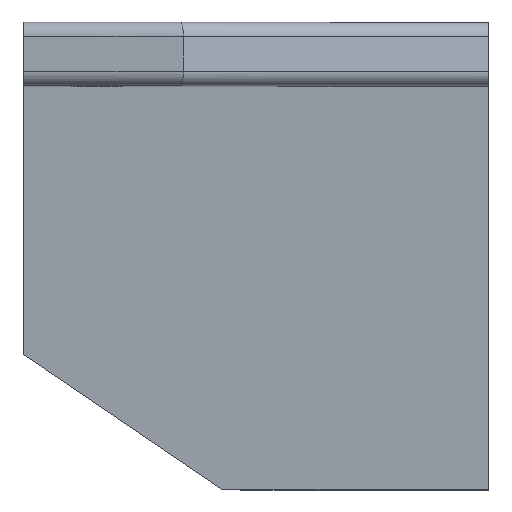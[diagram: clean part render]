
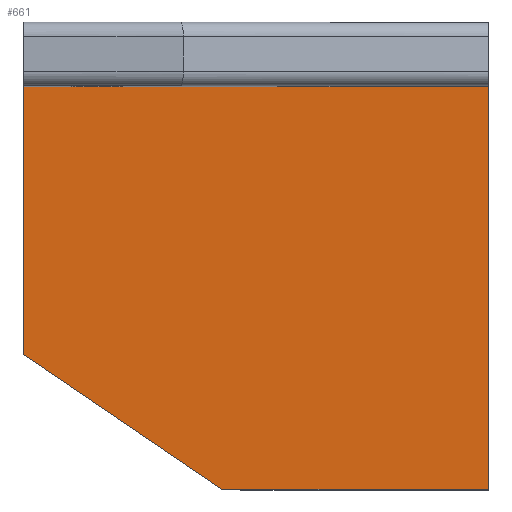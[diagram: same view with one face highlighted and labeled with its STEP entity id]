
A CAD part, top view. The second image highlights one B-rep face of the part: STEP entity #661.
In plain terms, the highlighted planar face has unit normal (0, -0.027, 1).
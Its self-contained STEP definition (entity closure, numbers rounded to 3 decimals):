
#49=FACE_OUTER_BOUND('',#84,.T.);
#84=EDGE_LOOP('',(#454,#455,#456,#457,#458));
#134=LINE('',#972,#213);
#135=LINE('',#975,#214);
#136=LINE('',#977,#215);
#137=LINE('',#979,#216);
#138=LINE('',#980,#217);
#213=VECTOR('',#774,10.);
#214=VECTOR('',#777,10.);
#215=VECTOR('',#778,10.);
#216=VECTOR('',#779,10.);
#217=VECTOR('',#780,10.);
#287=VERTEX_POINT('',#960);
#292=VERTEX_POINT('',#970);
#293=VERTEX_POINT('',#974);
#294=VERTEX_POINT('',#976);
#295=VERTEX_POINT('',#978);
#356=EDGE_CURVE('',#287,#292,#134,.T.);
#357=EDGE_CURVE('',#292,#293,#135,.T.);
#358=EDGE_CURVE('',#293,#294,#136,.T.);
#359=EDGE_CURVE('',#294,#295,#137,.T.);
#360=EDGE_CURVE('',#295,#287,#138,.T.);
#454=ORIENTED_EDGE('',*,*,#356,.T.);
#455=ORIENTED_EDGE('',*,*,#357,.T.);
#456=ORIENTED_EDGE('',*,*,#358,.T.);
#457=ORIENTED_EDGE('',*,*,#359,.T.);
#458=ORIENTED_EDGE('',*,*,#360,.T.);
#636=PLANE('',#704);
#661=ADVANCED_FACE('',(#49),#636,.F.);
#704=AXIS2_PLACEMENT_3D('',#973,#775,#776);
#774=DIRECTION('',(0.827,-0.562,-0.015));
#775=DIRECTION('center_axis',(0.,0.027,-1.));
#776=DIRECTION('ref_axis',(0.,1.,0.027));
#777=DIRECTION('',(1.,0.,0.));
#778=DIRECTION('',(0.,1.,0.027));
#779=DIRECTION('',(-1.,0.,0.));
#780=DIRECTION('',(0.,-1.,-0.027));
#960=CARTESIAN_POINT('',(0.,-22.832,16.697));
#970=CARTESIAN_POINT('',(13.641,-32.11,16.444));
#972=CARTESIAN_POINT('',(-2.01,-21.465,16.735));
#973=CARTESIAN_POINT('Origin',(0.,-32.11,16.444));
#974=CARTESIAN_POINT('',(32.,-32.11,16.444));
#975=CARTESIAN_POINT('',(0.,-32.11,16.444));
#976=CARTESIAN_POINT('',(32.,-4.4,17.202));
#977=CARTESIAN_POINT('',(32.,0.,17.322));
#978=CARTESIAN_POINT('',(0.,-4.4,17.202));
#979=CARTESIAN_POINT('',(7.425,-4.4,17.202));
#980=CARTESIAN_POINT('',(0.,0.,17.322));
